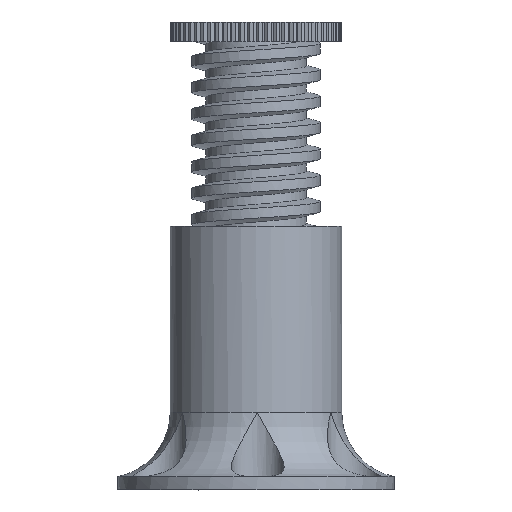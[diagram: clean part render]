
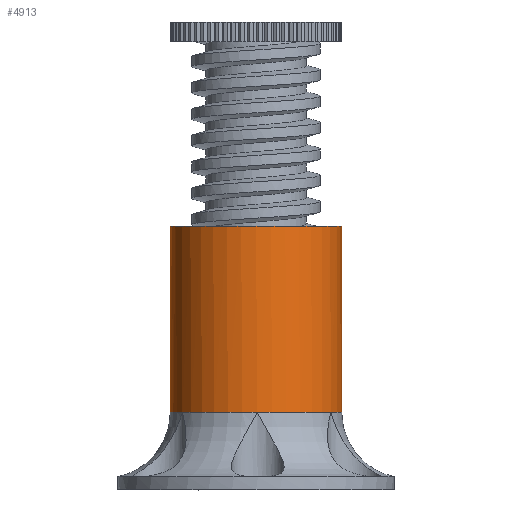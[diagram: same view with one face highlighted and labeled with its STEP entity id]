
A CAD part, front view. The second image highlights one B-rep face of the part: STEP entity #4913.
In plain terms, the highlighted cylindrical face has radius 13 mm (diameter 26 mm), a full revolution.
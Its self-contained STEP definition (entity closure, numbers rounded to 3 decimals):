
#229=FACE_OUTER_BOUND('',#503,.T.);
#503=EDGE_LOOP('',(#3469,#3470,#3471,#3472,#3473,#3474,#3475,#3476,#3477,
#3478));
#735=CIRCLE('',#5179,13.);
#749=CIRCLE('',#5206,13.);
#750=CIRCLE('',#5208,13.);
#753=CIRCLE('',#5212,13.);
#754=CIRCLE('',#5214,13.);
#755=CIRCLE('',#5215,13.);
#759=CIRCLE('',#5220,13.);
#760=CIRCLE('',#5222,13.);
#1041=LINE('',#9897,#1516);
#1516=VECTOR('',#5800,13.);
#1986=VERTEX_POINT('',#7623);
#1996=VERTEX_POINT('',#7692);
#2000=VERTEX_POINT('',#7727);
#2028=VERTEX_POINT('',#9683);
#2030=VERTEX_POINT('',#9690);
#2034=VERTEX_POINT('',#9756);
#2036=VERTEX_POINT('',#9794);
#2038=VERTEX_POINT('',#9860);
#2550=EDGE_CURVE('',#2028,#2028,#735,.T.);
#2573=EDGE_CURVE('',#2036,#2034,#749,.T.);
#2574=EDGE_CURVE('',#1996,#1986,#750,.T.);
#2577=EDGE_CURVE('',#1986,#2000,#753,.T.);
#2578=EDGE_CURVE('',#2000,#2038,#754,.T.);
#2579=EDGE_CURVE('',#2038,#2036,#755,.T.);
#2583=EDGE_CURVE('',#2034,#2030,#759,.T.);
#2584=EDGE_CURVE('',#2030,#1996,#760,.T.);
#2598=EDGE_CURVE('',#2028,#2038,#1041,.T.);
#3469=ORIENTED_EDGE('',*,*,#2550,.F.);
#3470=ORIENTED_EDGE('',*,*,#2598,.T.);
#3471=ORIENTED_EDGE('',*,*,#2578,.F.);
#3472=ORIENTED_EDGE('',*,*,#2577,.F.);
#3473=ORIENTED_EDGE('',*,*,#2574,.F.);
#3474=ORIENTED_EDGE('',*,*,#2584,.F.);
#3475=ORIENTED_EDGE('',*,*,#2583,.F.);
#3476=ORIENTED_EDGE('',*,*,#2573,.F.);
#3477=ORIENTED_EDGE('',*,*,#2579,.F.);
#3478=ORIENTED_EDGE('',*,*,#2598,.F.);
#4773=CYLINDRICAL_SURFACE('',#5236,13.);
#4913=ADVANCED_FACE('',(#229),#4773,.T.);
#5179=AXIS2_PLACEMENT_3D('',#9684,#5678,#5679);
#5206=AXIS2_PLACEMENT_3D('',#9852,#5732,#5733);
#5208=AXIS2_PLACEMENT_3D('',#9854,#5736,#5737);
#5212=AXIS2_PLACEMENT_3D('',#9858,#5744,#5745);
#5214=AXIS2_PLACEMENT_3D('',#9861,#5748,#5749);
#5215=AXIS2_PLACEMENT_3D('',#9862,#5750,#5751);
#5220=AXIS2_PLACEMENT_3D('',#9868,#5760,#5761);
#5222=AXIS2_PLACEMENT_3D('',#9870,#5764,#5765);
#5236=AXIS2_PLACEMENT_3D('',#9896,#5798,#5799);
#5678=DIRECTION('center_axis',(0.,0.,1.));
#5679=DIRECTION('ref_axis',(1.,0.,0.));
#5732=DIRECTION('center_axis',(0.,0.,-1.));
#5733=DIRECTION('ref_axis',(-1.,0.,0.));
#5736=DIRECTION('center_axis',(0.,0.,-1.));
#5737=DIRECTION('ref_axis',(-1.,0.,0.));
#5744=DIRECTION('center_axis',(0.,0.,-1.));
#5745=DIRECTION('ref_axis',(-1.,0.,0.));
#5748=DIRECTION('center_axis',(0.,0.,-1.));
#5749=DIRECTION('ref_axis',(-1.,0.,0.));
#5750=DIRECTION('center_axis',(0.,0.,-1.));
#5751=DIRECTION('ref_axis',(-1.,0.,0.));
#5760=DIRECTION('center_axis',(0.,0.,-1.));
#5761=DIRECTION('ref_axis',(-1.,0.,0.));
#5764=DIRECTION('center_axis',(0.,0.,-1.));
#5765=DIRECTION('ref_axis',(-1.,0.,0.));
#5798=DIRECTION('center_axis',(0.,0.,1.));
#5799=DIRECTION('ref_axis',(1.,0.,0.));
#5800=DIRECTION('',(0.,0.,-1.));
#7623=CARTESIAN_POINT('',(0.194,-12.999,11.798));
#7692=CARTESIAN_POINT('',(11.354,-6.331,11.798));
#7727=CARTESIAN_POINT('',(-11.16,-6.667,11.798));
#9683=CARTESIAN_POINT('',(-13.,0.,40.));
#9684=CARTESIAN_POINT('Origin',(0.,0.,40.));
#9690=CARTESIAN_POINT('',(11.16,6.667,11.798));
#9756=CARTESIAN_POINT('',(-0.194,12.999,11.798));
#9794=CARTESIAN_POINT('',(-11.354,6.331,11.798));
#9852=CARTESIAN_POINT('Origin',(0.,0.,11.798));
#9854=CARTESIAN_POINT('Origin',(0.,0.,11.798));
#9858=CARTESIAN_POINT('Origin',(0.,0.,11.798));
#9860=CARTESIAN_POINT('',(-13.,0.,11.798));
#9861=CARTESIAN_POINT('Origin',(0.,0.,11.798));
#9862=CARTESIAN_POINT('Origin',(0.,0.,11.798));
#9868=CARTESIAN_POINT('Origin',(0.,0.,11.798));
#9870=CARTESIAN_POINT('Origin',(0.,0.,11.798));
#9896=CARTESIAN_POINT('Origin',(0.,0.,0.));
#9897=CARTESIAN_POINT('',(-13.,0.,0.));
